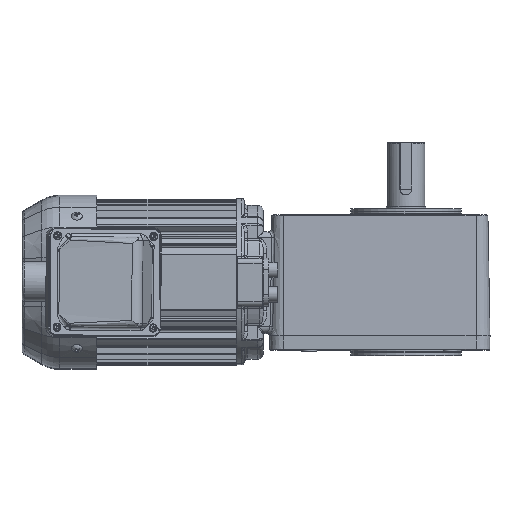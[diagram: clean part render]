
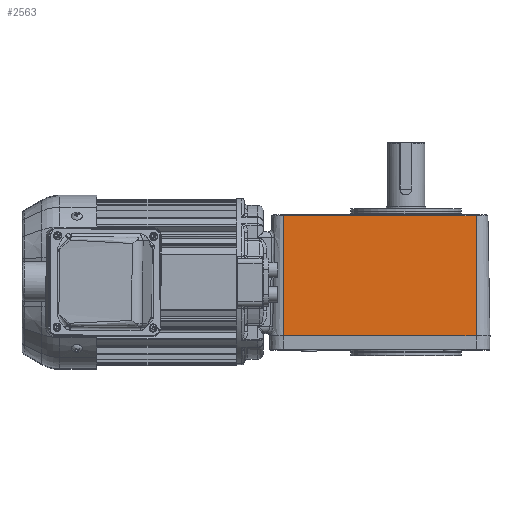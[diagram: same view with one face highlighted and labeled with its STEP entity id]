
A CAD part, top view. The second image highlights one B-rep face of the part: STEP entity #2563.
In plain terms, the highlighted planar face has unit normal (0, 0.018, 1).
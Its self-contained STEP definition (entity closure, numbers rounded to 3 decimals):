
#2563 = ADVANCED_FACE( '', ( #6413 ), #6414, .T. );
#6413 = FACE_OUTER_BOUND( '', #15283, .T. );
#6414 = PLANE( '', #15284 );
#15283 = EDGE_LOOP( '', ( #30469, #30470, #30471, #30472 ) );
#15284 = AXIS2_PLACEMENT_3D( '', #30473, #30474, #30475 );
#30469 = ORIENTED_EDGE( '', *, *, #42868, .F. );
#30470 = ORIENTED_EDGE( '', *, *, #43228, .T. );
#30471 = ORIENTED_EDGE( '', *, *, #43229, .T. );
#30472 = ORIENTED_EDGE( '', *, *, #43230, .F. );
#30473 = CARTESIAN_POINT( '', ( 128.377, -124.468, 94.255 ) );
#30474 = DIRECTION( '', ( 0., 0.017, 1. ) );
#30475 = DIRECTION( '', ( 0., -1., 0.017 ) );
#42868 = EDGE_CURVE( '', #49704, #49700, #49706, .T. );
#43228 = EDGE_CURVE( '', #49704, #50272, #50273, .T. );
#43229 = EDGE_CURVE( '', #50272, #50274, #50275, .T. );
#43230 = EDGE_CURVE( '', #49700, #50274, #50276, .T. );
#49700 = VERTEX_POINT( '', #61597 );
#49704 = VERTEX_POINT( '', #61602 );
#49706 = LINE( '', #61604, #61605 );
#50272 = VERTEX_POINT( '', #63004 );
#50273 = LINE( '', #63005, #63006 );
#50274 = VERTEX_POINT( '', #63007 );
#50275 = LINE( '', #63008, #63009 );
#50276 = LINE( '', #63010, #63011 );
#61597 = CARTESIAN_POINT( '', ( 210.877, -124.468, 94.255 ) );
#61602 = CARTESIAN_POINT( '', ( 210.877, -21.468, 92.457 ) );
#61604 = CARTESIAN_POINT( '', ( 210.877, -124.468, 94.255 ) );
#61605 = VECTOR( '', #74986, 1000. );
#63004 = CARTESIAN_POINT( '', ( 45.877, -21.468, 92.457 ) );
#63005 = CARTESIAN_POINT( '', ( 128.377, -21.468, 92.457 ) );
#63006 = VECTOR( '', #75471, 1000. );
#63007 = CARTESIAN_POINT( '', ( 45.877, -124.468, 94.255 ) );
#63008 = CARTESIAN_POINT( '', ( 45.877, -124.468, 94.255 ) );
#63009 = VECTOR( '', #75472, 1000. );
#63010 = CARTESIAN_POINT( '', ( 45.877, -124.468, 94.255 ) );
#63011 = VECTOR( '', #75473, 1000. );
#74986 = DIRECTION( '', ( 0., -1., 0.017 ) );
#75471 = DIRECTION( '', ( -1., 0., 0. ) );
#75472 = DIRECTION( '', ( 0., -1., 0.017 ) );
#75473 = DIRECTION( '', ( -1., 0., 0. ) );
